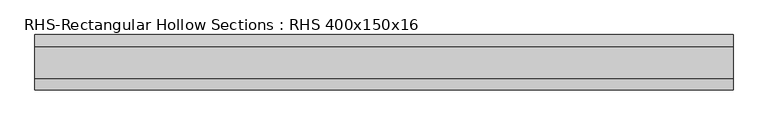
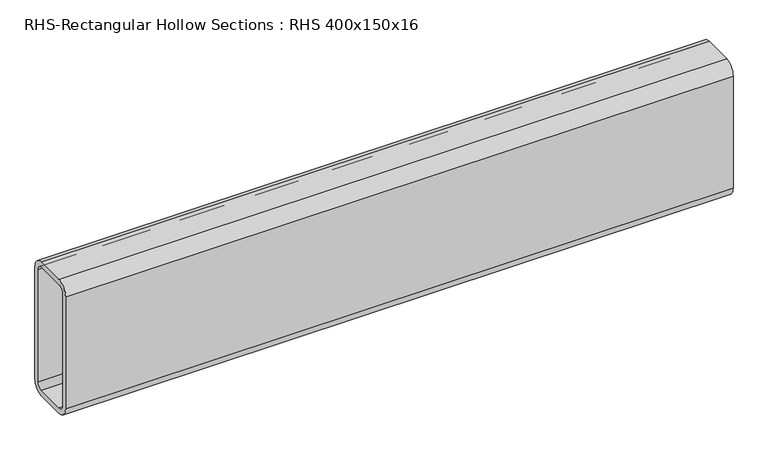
"""IFC4 building model written with IfcOpenShell, lengths in millimetres: beam geometry, RHS-Rectangular Hollow Sections : RHS 400x150x16."""

from ifc_helpers import new_model, si_unit, point, frame, frame_2d, origin, place, context, project, spatial, polyline, circle_curve, trimmed, segment, composite_curve, outline, extrude, source, transform, mapped, element, save


def rhs_rectangular_hollow_sections_rhs_400x150x16_e138dd60(model_context):
    return source(origin(), model_context, "Body", "SweptSolid", [
        extrude(outline(composite_curve([segment(polyline([(75.0, 168.0), (75.0, -168.0)]), True, "CONTINUOUS"), segment(trimmed(circle_curve(frame_2d((43.0, -168.0)), 32.0), [point((75.0, -168.0))], [point((43.0, -200.0))], False, "CARTESIAN"), True, "CONTINUOUS"), segment(polyline([(43.0, -200.0), (-43.0, -200.0)]), True, "CONTINUOUS"), segment(trimmed(circle_curve(frame_2d((-43.0, -168.0)), 32.0), [point((-43.0, -200.0))], [point((-75.0, -168.0))], False, "CARTESIAN"), True, "CONTINUOUS"), segment(polyline([(-75.0, -168.0), (-75.0, 168.0)]), True, "CONTINUOUS"), segment(trimmed(circle_curve(frame_2d((-43.0, 168.0)), 32.0), [point((-75.0, 168.0))], [point((-43.0, 200.0))], False, "CARTESIAN"), True, "CONTINUOUS"), segment(polyline([(-43.0, 200.0), (43.0, 200.0)]), True, "CONTINUOUS"), segment(trimmed(circle_curve(frame_2d((43.0, 168.0)), 32.0), [point((43.0, 200.0))], [point((75.0, 168.0))], False, "CARTESIAN"), True, "CONTINUOUS")], self_intersect=False), holes=[composite_curve([segment(trimmed(circle_curve(frame_2d((-43.0, 168.0)), 16.0), [point((-43.0, 184.0))], [point((-59.0, 168.0))], True, "CARTESIAN"), True, "CONTINUOUS"), segment(polyline([(-59.0, 168.0), (-59.0, -168.0)]), True, "CONTINUOUS"), segment(trimmed(circle_curve(frame_2d((-43.0, -168.0)), 16.0), [point((-59.0, -168.0))], [point((-43.0, -184.0))], True, "CARTESIAN"), True, "CONTINUOUS"), segment(polyline([(-43.0, -184.0), (43.0, -184.0)]), True, "CONTINUOUS"), segment(trimmed(circle_curve(frame_2d((43.0, -168.0)), 16.0), [point((43.0, -184.0))], [point((59.0, -168.0))], True, "CARTESIAN"), True, "CONTINUOUS"), segment(polyline([(59.0, -168.0), (59.0, 168.0)]), True, "CONTINUOUS"), segment(trimmed(circle_curve(frame_2d((43.0, 168.0)), 16.0), [point((59.0, 168.0))], [point((43.0, 184.0))], True, "CARTESIAN"), True, "CONTINUOUS"), segment(polyline([(43.0, 184.0), (-43.0, 184.0)]), True, "CONTINUOUS")], self_intersect=False)]), frame((-944.0, 0.0, 0.0), z_axis=(1.0, 0.0, 0.0), x_axis=(0.0, 1.0, 0.0)), (0.0, 0.0, 1.0), 1888.0),
    ])


if __name__ == "__main__":
    model = new_model("IFC4")
    model_context = context("Model", 3, world=origin())
    ifc_project = project(units=[si_unit("LENGTHUNIT", "METRE", prefix="MILLI")], contexts=[model_context])
    site = spatial("IfcSite", under=ifc_project)
    building = spatial("IfcBuilding", under=site)
    placement = place(None, origin())
    rhs_rectangular_hollow_sections_rhs_400x150x16_shape = rhs_rectangular_hollow_sections_rhs_400x150x16_e138dd60(model_context)
    element("IfcBeam", 1, ObjectType="RHS-Rectangular Hollow Sections : RHS 400x150x16", at=placement, inside=building, context=model_context, shape_type="MappedRepresentation", body=[
        mapped(rhs_rectangular_hollow_sections_rhs_400x150x16_shape, transform((0.0, 0.0, 0.0), x_axis=(1.0, 0.0, 0.0), y_axis=(0.0, 1.0, 0.0), z_axis=(0.0, 0.0, 1.0))),
    ])
    save(model, "model.ifc")
